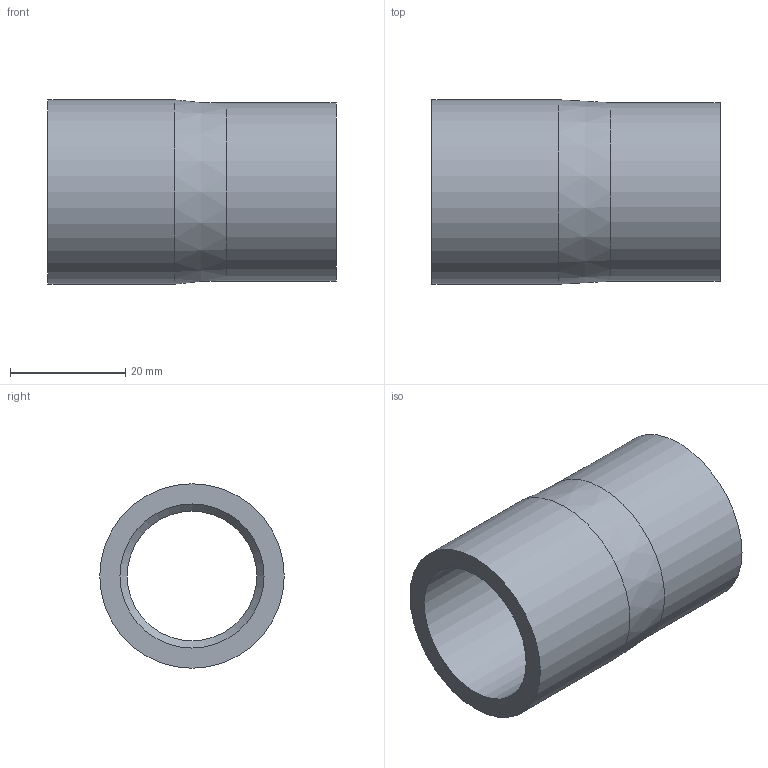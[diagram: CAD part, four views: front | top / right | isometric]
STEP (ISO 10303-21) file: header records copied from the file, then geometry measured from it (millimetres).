
FILE_DESCRIPTION(/* description */ ('PLASSON REDUCING SOCKET M.F.32(25)25 CEMENTED'),/* implementation_level */ '2;1');
FILE_NAME(/* name */ 'C:\Dropbox\KIMPROJECTS-Inventor\99-16-3568-Processing\PVC Catalog 2017\050200\050200032025.ipt.stp',/* time_stamp */ '2017-12-07T15:52:10+02:00',/* author */ ('KIM'),/* organization */ (''),/* preprocessor_version */ 'ST-DEVELOPER v15.6',/* originating_system */ 'Autodesk Inventor 2015',/* authorisation */ '');
FILE_SCHEMA (('AUTOMOTIVE_DESIGN { 1 0 10303 214 3 1 1 }'));
Length unit declared in the file: millimetre
Products named in the file (1): 050200032025
Bounding box: 50 x 32 x 32 mm (x, y, z)
Volume: 15566.7 mm3; surface area: 9500.9 mm2
Topology: 1 solids, 1 shells, 10 faces, 17 edges, 10 vertices
Faces by surface type: cylinder 5, plane 3, cone 2
Full cylindrical faces by diameter (mm): 22.5 x1, 25 x2, 31 x1, 32 x1
Entity records: 232 total; most frequent: DIRECTION 42, CARTESIAN_POINT 31, AXIS2_PLACEMENT_3D 21, EDGE_LOOP 20, ORIENTED_EDGE 20, FACE_BOUND 10, FACE_OUTER_BOUND 10, CIRCLE 10
